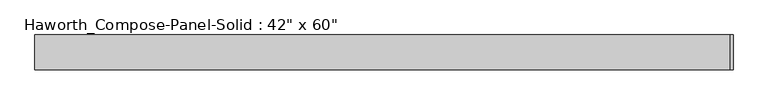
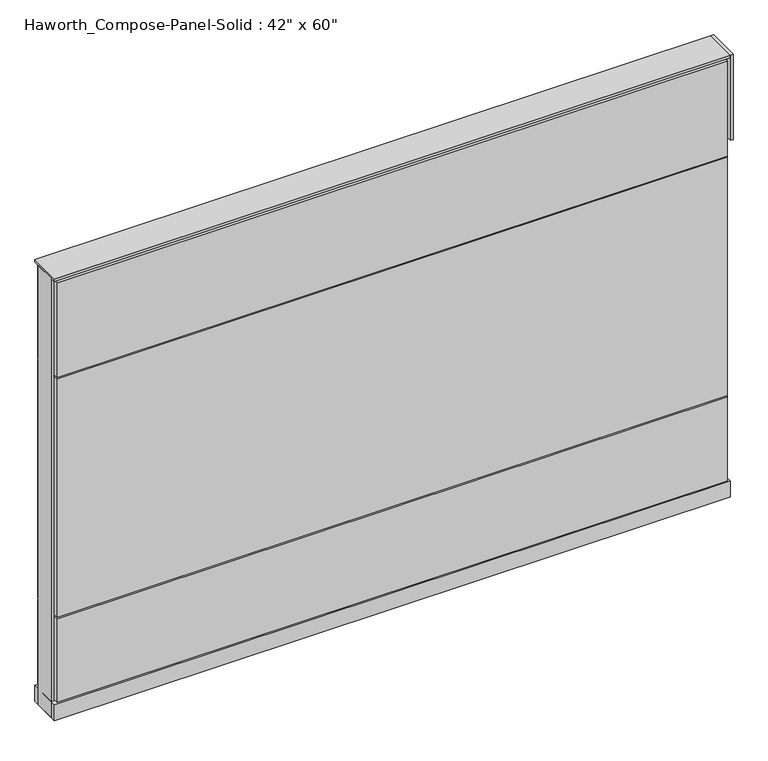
"""IFC4 building model written with IfcOpenShell, lengths in millimetres: furniture geometry."""

from ifc_helpers import new_model, si_unit, point, frame, frame_2d, origin, origin_with_axes, place, context, project, spatial, polyline, circle_curve, trimmed, segment, composite_curve, outline, extrude, source, transform, mapped, element, save


def furniture_3affe85f(model_context):
    return source(origin(), model_context, "Body", "SweptSolid", [
        extrude(outline(composite_curve([segment(trimmed(circle_curve(frame_2d((-683.3597098, 0.0)), 12.7), [point((-696.0597098, 0.0))], [point((-670.6597098, 0.0))], False, "CARTESIAN"), True, "CONTINUOUS"), segment(trimmed(circle_curve(frame_2d((-683.3597098, 0.0)), 12.7), [point((-670.6597098, 0.0))], [point((-696.0597098, 0.0))], False, "CARTESIAN"), True, "CONTINUOUS")], self_intersect=False)), origin_with_axes(), (0.0, 0.0, 1.0), 12.7),
        extrude(outline(composite_curve([segment(trimmed(circle_curve(frame_2d((688.2402902, 0.0)), 12.7), [point((675.5402902, 0.0))], [point((700.9402902, 0.0))], False, "CARTESIAN"), True, "CONTINUOUS"), segment(trimmed(circle_curve(frame_2d((688.2402902, 0.0)), 12.7), [point((700.9402902, 0.0))], [point((675.5402902, 0.0))], False, "CARTESIAN"), True, "CONTINUOUS")], self_intersect=False)), origin_with_axes(), (0.0, 0.0, 1.0), 12.7),
        extrude(outline(polyline([(770.7902902, 38.1), (770.7902902, -38.1), (764.4402902, -38.1), (764.4402902, 38.1), (770.7902902, 38.1)])), frame((0.0, 0.0, 863.6), z_axis=(0.0, 0.0, 1.0), x_axis=(1.0, 0.0, 0.0)), (0.0, 0.0, 1.0), 203.2),
        extrude(outline(polyline([(758.0902902, 38.1), (758.0902902, 25.4), (-753.2097098, 25.4), (-753.2097098, 38.1), (758.0902902, 38.1)])), frame((0.0, 0.0, 828.675), z_axis=(0.0, 0.0, 1.0), x_axis=(1.0, 0.0, 0.0)), (0.0, 0.0, 1.0), 225.425),
        extrude(outline(polyline([(758.0902902, 38.1), (758.0902902, 25.4), (-753.2097098, 25.4), (-753.2097098, 38.1), (758.0902902, 38.1)])), frame((0.0, 0.0, 257.175), z_axis=(0.0, 0.0, 1.0), x_axis=(1.0, 0.0, 0.0)), (0.0, 0.0, 1.0), 568.325),
        extrude(outline(polyline([(758.0902902, 38.1), (758.0902902, 25.4), (-753.2097098, 25.4), (-753.2097098, 38.1), (758.0902902, 38.1)])), frame((0.0, 0.0, 53.975), z_axis=(0.0, 0.0, 1.0), x_axis=(1.0, 0.0, 0.0)), (0.0, 0.0, 1.0), 200.025),
        extrude(outline(polyline([(758.0902902, -38.1), (-753.2097098, -38.1), (-753.2097098, -25.4), (758.0902902, -25.4), (758.0902902, -38.1)])), frame((0.0, 0.0, 828.675), z_axis=(0.0, 0.0, 1.0), x_axis=(1.0, 0.0, 0.0)), (0.0, 0.0, 1.0), 225.425),
        extrude(outline(polyline([(758.0902902, -38.1), (-753.2097098, -38.1), (-753.2097098, -25.4), (758.0902902, -25.4), (758.0902902, -38.1)])), frame((0.0, 0.0, 257.175), z_axis=(0.0, 0.0, 1.0), x_axis=(1.0, 0.0, 0.0)), (0.0, 0.0, 1.0), 568.325),
        extrude(outline(polyline([(758.0902902, -38.1), (-753.2097098, -38.1), (-753.2097098, -25.4), (758.0902902, -25.4), (758.0902902, -38.1)])), frame((0.0, 0.0, 53.975), z_axis=(0.0, 0.0, 1.0), x_axis=(1.0, 0.0, 0.0)), (0.0, 0.0, 1.0), 200.025),
        extrude(outline(polyline([(764.4402902, 25.4), (764.4402902, -25.4), (-759.5597098, -25.4), (-759.5597098, 25.4), (764.4402902, 25.4)])), frame((0.0, 0.0, 12.7), z_axis=(0.0, 0.0, 1.0), x_axis=(1.0, 0.0, 0.0)), (0.0, 0.0, 1.0), 1047.75),
        extrude(outline(polyline([(-759.5597098, -38.1), (-759.5597098, 38.1), (764.4402902, 38.1), (764.4402902, -38.1), (-759.5597098, -38.1)])), frame((0.0, 0.0, 12.7), z_axis=(0.0, 0.0, 1.0), x_axis=(1.0, 0.0, 0.0)), (0.0, 0.0, 1.0), 38.1),
        extrude(outline(polyline([(-759.5597098, -38.1), (-759.5597098, 38.1), (764.4402902, 38.1), (764.4402902, -38.1), (-759.5597098, -38.1)])), frame((0.0, 0.0, 1060.45), z_axis=(0.0, 0.0, 1.0), x_axis=(1.0, 0.0, 0.0)), (0.0, 0.0, 1.0), 6.35),
    ])


if __name__ == "__main__":
    model = new_model("IFC4")
    model_context = context("Model", 3, world=origin())
    ifc_project = project(units=[si_unit("LENGTHUNIT", "METRE", prefix="MILLI")], contexts=[model_context])
    site = spatial("IfcSite", under=ifc_project)
    building = spatial("IfcBuilding", under=site)
    placement = place(None, origin())
    furniture_shape = furniture_3affe85f(model_context)
    element("IfcFurniture", 1, ObjectType="Haworth_Compose-Panel-Solid : 42\" x 60\"", at=placement, inside=building, context=model_context, shape_type="MappedRepresentation", body=[
        mapped(furniture_shape, transform((0.0, 0.0, 0.0), x_axis=(1.0, 0.0, 0.0), y_axis=(0.0, 1.0, 0.0), z_axis=(0.0, 0.0, 1.0))),
    ])
    save(model, "model.ifc")
